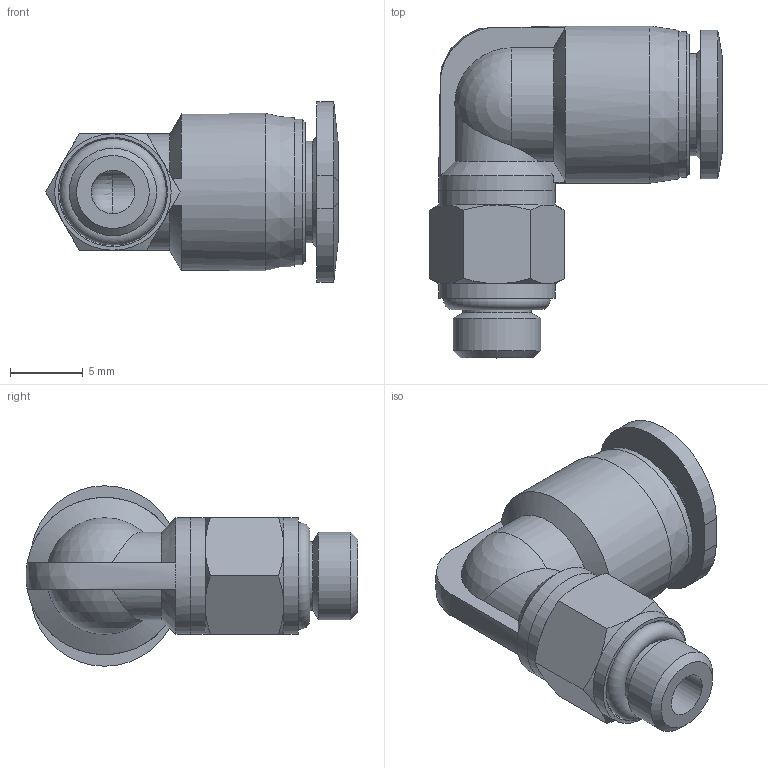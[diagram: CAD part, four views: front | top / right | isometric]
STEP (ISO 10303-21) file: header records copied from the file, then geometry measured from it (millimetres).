
FILE_DESCRIPTION((''),'2;1');
FILE_NAME('D:\INVENTOR\[New Inventor]\CDC Products 3D Ass''y\Compact One-Touch Fittings\Metric\PL-C\PL06-M6C.stp','2010-10-01T17:33:47',('Microsoft'),(''),'Autodesk Inventor 2008','Autodesk Inventor 2008','');
FILE_SCHEMA(('AUTOMOTIVE_DESIGN { 1 0 10303 214 1 1 1 1 }'));
Length unit declared in the file: millimetre
Products named in the file (1): PL06-M6C
Bounding box: 20.1 x 22.8 x 12.4 mm (x, y, z)
Volume: 1400.3 mm3; surface area: 1748.3 mm2
Topology: 2 solids, 2 shells, 75 faces, 173 edges, 103 vertices
Faces by surface type: plane 23, cone 22, cylinder 19, bspline 5, torus 3, sphere 3
Full cylindrical faces by diameter (mm): 3 x2, 4.7 x2, 6 x1, 6.2 x2, 7 x1, 8 x3, 10 x1, 10.8 x1
Entity records: 2261 total; most frequent: CARTESIAN_POINT 757, DIRECTION 312, ORIENTED_EDGE 282, AXIS2_PLACEMENT_3D 143, EDGE_CURVE 141, EDGE_LOOP 108, VERTEX_POINT 97, FACE_OUTER_BOUND 75
